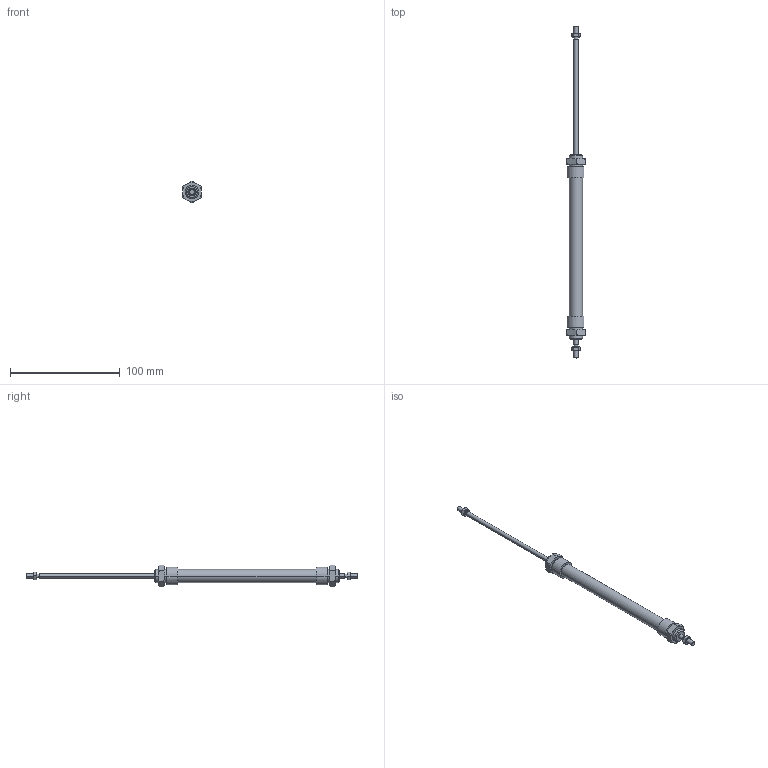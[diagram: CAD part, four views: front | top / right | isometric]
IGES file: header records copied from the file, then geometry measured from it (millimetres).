
Global section: file name: No Iges File Name specified; native system: AutoDesk Inventor R6.0; preprocessor: AutoDesk Inventor Iges Exporter R6.0; author: No Author specified; organization: No Organization specified; date: 20030403.071913; units: millimetre
Bounding box: 17 x 302 x 19.63 mm (x, y, z)
Volume: 24029.4 mm3; surface area: 14973.6 mm2
Topology: 6 solids, 6 shells, 172 faces, 374 edges, 220 vertices
Faces by surface type: cone 68, plane 46, bspline 32, cylinder 20, revolution 6
